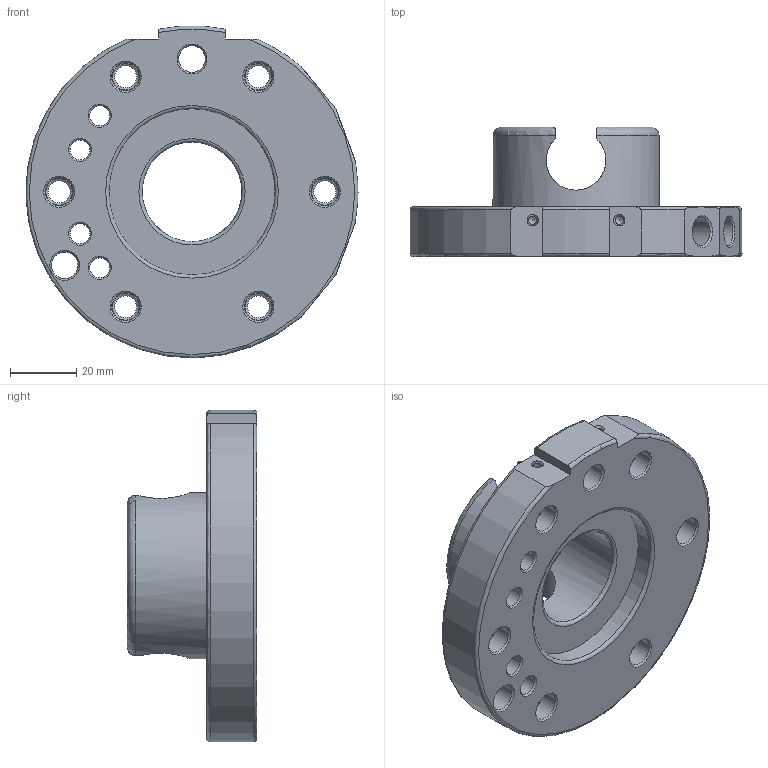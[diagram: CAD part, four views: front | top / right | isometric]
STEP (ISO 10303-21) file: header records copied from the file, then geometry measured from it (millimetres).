
FILE_DESCRIPTION(/* description */ (''),/* implementation_level */ '2;1');
FILE_NAME(/* name */ 'G-SHW100-2UEP-M8.stp',/* time_stamp */ '2024-07-08T15:06:20+02:00',/* author */ ('ysplieth'),/* organization */ (''),/* preprocessor_version */ 'ST-DEVELOPER v20',/* originating_system */ 'Autodesk Inventor 2024',/* authorisation */ '');
FILE_SCHEMA (('AUTOMOTIVE_DESIGN { 1 0 10303 214 3 1 1 }'));
Length unit declared in the file: millimetre
Products named in the file (1): Bauteil2
Bounding box: 99.97 x 39 x 99.87 mm (x, y, z)
Volume: 107509.9 mm3; surface area: 35169 mm2
Topology: 1 solids, 1 shells, 192 faces, 617 edges, 404 vertices
Faces by surface type: plane 75, cone 64, cylinder 43, torus 10
Full cylindrical faces by diameter (mm): 2.459 x2, 6 x8, 6.647 x6, 8 x2, 8.376 x6, 8.566 x4, 15 x6, 30 x1, 50 x2
Entity records: 7828 total; most frequent: CARTESIAN_POINT 2004, ORIENTED_EDGE 1222, DIRECTION 1157, EDGE_CURVE 611, AXIS2_PLACEMENT_3D 469, VERTEX_POINT 404, EDGE_LOOP 281, CIRCLE 276
